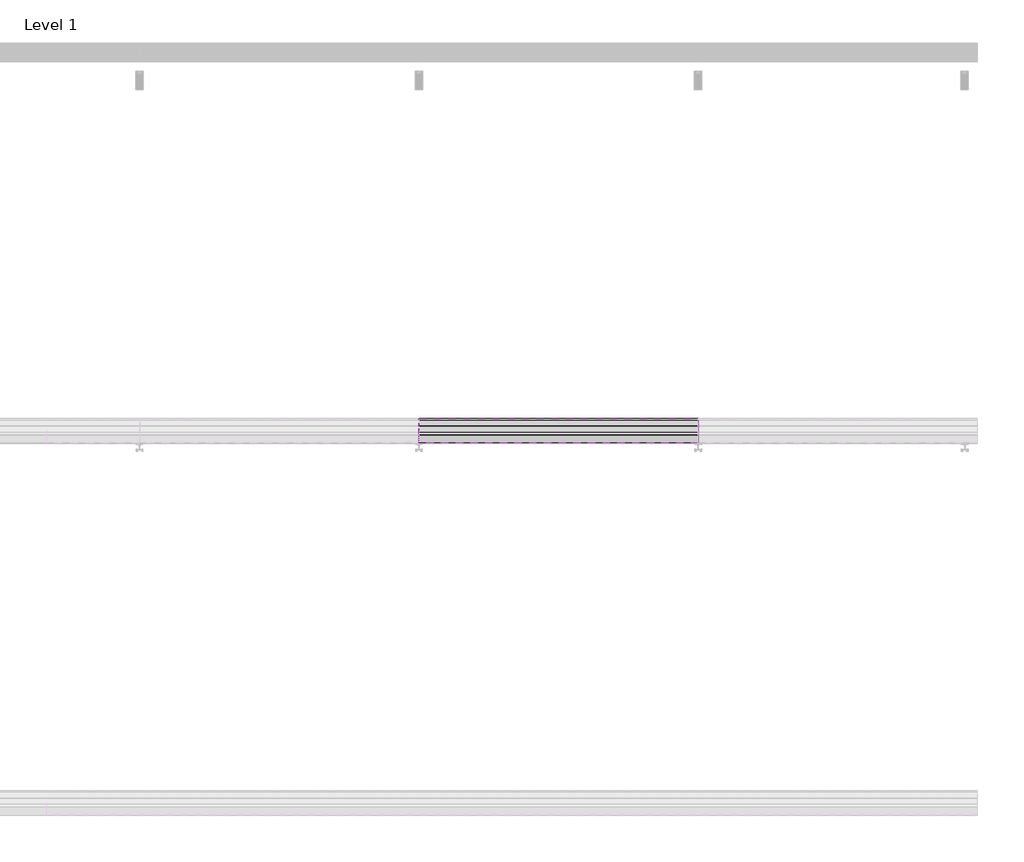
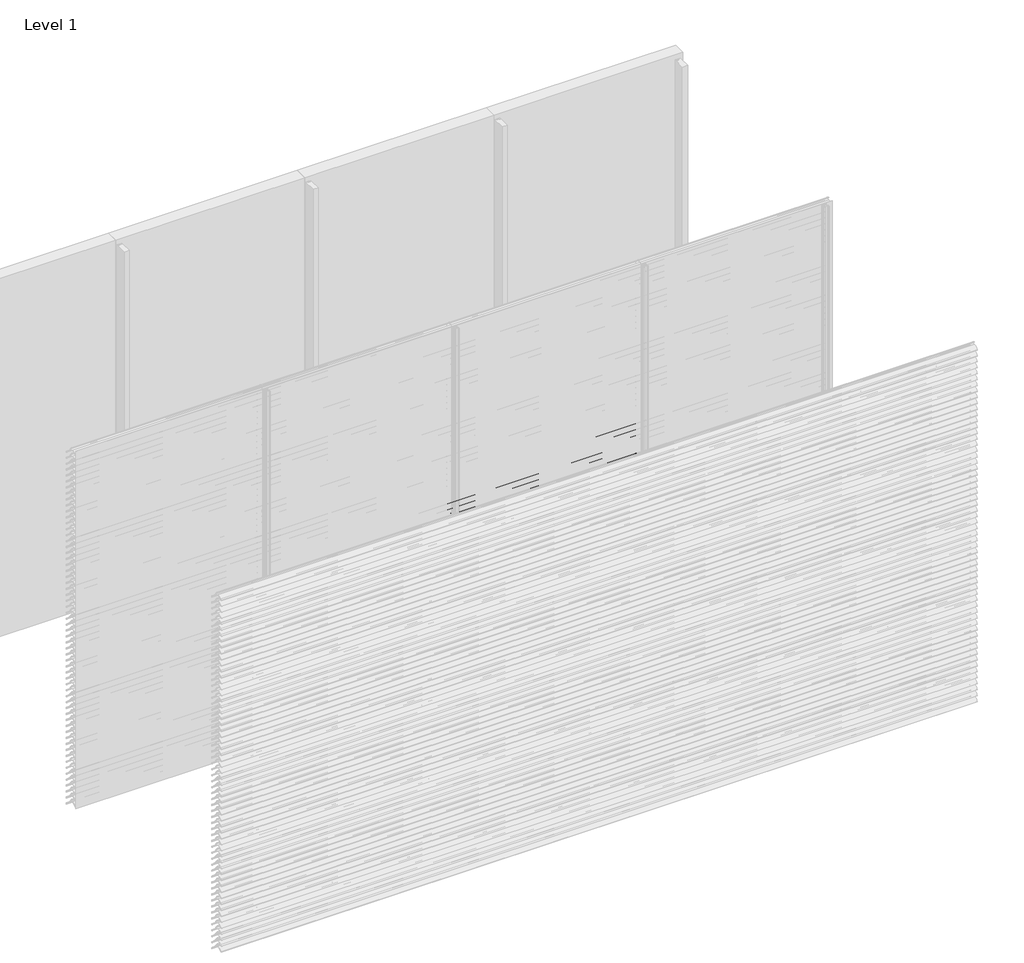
# One storey, part 49 of 173: 17 proxies.
"""IFC4 building model written with IfcOpenShell, lengths in millimetres."""

from ifc_helpers import new_model, si_unit, point, frame, frame_2d, origin, place, context, project, spatial, polyline, circle_curve, trimmed, segment, composite_curve, outline, extrude, element, save

model = new_model("IFC4")

# Units and contexts
model_context = context("Model", 3, world=origin())
ifc_project = project(units=[si_unit("LENGTHUNIT", "METRE", prefix="MILLI")], contexts=[model_context])

# Site, building, storey
site = spatial("IfcSite", under=ifc_project)
building = spatial("IfcBuilding", under=site)
storey = spatial("IfcBuildingStorey", under=building, Name="Level 1", Elevation=0.0)

# Proxies
placement = place(None, origin())
element("IfcBuildingElementProxy", 1, Name="Wall Sweeps", at=placement, inside=storey, context=model_context, shape_type="SweptSolid", body=[
    extrude(outline(composite_curve([segment(polyline([(-41998.0, 1709.1474905), (-41998.0, 1711.6227417)]), True, "CONTINUOUS"), segment(trimmed(circle_curve(frame_2d((-41951.2682172, 1666.2200208)), 65.1557103), [point((-41998.0, 1711.6227417))], [point((-41954.4014323, 1731.3003524))], False, "CARTESIAN"), True, "CONTINUOUS"), segment(polyline([(-41954.4014323, 1731.3003524), (-41934.8315836, 1731.3003524)]), True, "CONTINUOUS"), segment(trimmed(circle_curve(frame_2d((-41732.7329489, 1878.5533172)), 250.0545817), [point((-41934.8315836, 1731.3003524))], [point((-41941.4452143, 1740.8344583))], False, "CARTESIAN"), True, "CONTINUOUS"), segment(trimmed(circle_curve(frame_2d((-41953.2981792, 1735.1737835)), 13.1352966), [point((-41941.4452143, 1740.8344583))], [point((-41953.8171475, 1748.298824))], True, "CARTESIAN"), True, "CONTINUOUS"), segment(polyline([(-41953.8171475, 1748.298824), (-41953.8171475, 1750.0)]), True, "CONTINUOUS"), segment(trimmed(circle_curve(frame_2d((-41953.2981792, 1735.1737835)), 14.8352966), [point((-41953.8171475, 1750.0))], [point((-41939.9637661, 1741.6760487))], False, "CARTESIAN"), True, "CONTINUOUS"), segment(trimmed(circle_curve(frame_2d((-41732.7329489, 1878.5533172)), 248.3545817), [point((-41939.9637661, 1741.6760487))], [point((-41873.8787895, 1674.2059416))], True, "CARTESIAN"), True, "CONTINUOUS"), segment(trimmed(circle_curve(frame_2d((-41883.8147537, 1661.6649442)), 16.0), [point((-41873.8787895, 1674.2059416))], [point((-41867.8648347, 1660.4))], False, "CARTESIAN"), True, "CONTINUOUS"), segment(polyline([(-41867.8648347, 1660.4), (-41869.6712069, 1660.4)]), True, "CONTINUOUS"), segment(trimmed(circle_curve(frame_2d((-41883.8147537, 1661.6649442)), 14.2), [point((-41869.6712069, 1660.4))], [point((-41874.9518628, 1672.7594998))], True, "CARTESIAN"), True, "CONTINUOUS"), segment(trimmed(circle_curve(frame_2d((-41732.7329489, 1878.5533172)), 250.1545817), [point((-41874.9518628, 1672.7594998))], [point((-41933.7064024, 1729.6003524))], False, "CARTESIAN"), True, "CONTINUOUS"), segment(polyline([(-41933.7064024, 1729.6003524), (-41954.3602632, 1729.6003524)]), True, "CONTINUOUS"), segment(trimmed(circle_curve(frame_2d((-41951.2682172, 1666.2200208)), 63.4557103), [point((-41954.3602632, 1729.6003524))], [point((-41998.0, 1709.1474905))], True, "CARTESIAN"), True, "CONTINUOUS")], self_intersect=False)), frame((3000.0, 0.0, 0.0), z_axis=(1.0, 0.0, 0.0), x_axis=(0.0, 1.0, 0.0)), (0.0, 0.0, 1.0), 1500.0),
])
element("IfcBuildingElementProxy", 2, Name="Wall Sweeps", at=placement, inside=storey, context=model_context, shape_type="SweptSolid", body=[
    extrude(outline(composite_curve([segment(polyline([(-41998.0, 1659.1474905), (-41998.0, 1661.6227417)]), True, "CONTINUOUS"), segment(trimmed(circle_curve(frame_2d((-41951.2682172, 1616.2200208)), 65.1557103), [point((-41998.0, 1661.6227417))], [point((-41954.4014323, 1681.3003524))], False, "CARTESIAN"), True, "CONTINUOUS"), segment(polyline([(-41954.4014323, 1681.3003524), (-41934.8315836, 1681.3003524)]), True, "CONTINUOUS"), segment(trimmed(circle_curve(frame_2d((-41732.7329489, 1828.5533172)), 250.0545817), [point((-41934.8315836, 1681.3003524))], [point((-41941.4452143, 1690.8344583))], False, "CARTESIAN"), True, "CONTINUOUS"), segment(trimmed(circle_curve(frame_2d((-41953.2981792, 1685.1737835)), 13.1352966), [point((-41941.4452143, 1690.8344583))], [point((-41953.8171475, 1698.298824))], True, "CARTESIAN"), True, "CONTINUOUS"), segment(polyline([(-41953.8171475, 1698.298824), (-41953.8171475, 1700.0)]), True, "CONTINUOUS"), segment(trimmed(circle_curve(frame_2d((-41953.2981792, 1685.1737835)), 14.8352966), [point((-41953.8171475, 1700.0))], [point((-41939.9637661, 1691.6760487))], False, "CARTESIAN"), True, "CONTINUOUS"), segment(trimmed(circle_curve(frame_2d((-41732.7329489, 1828.5533172)), 248.3545817), [point((-41939.9637661, 1691.6760487))], [point((-41873.8787895, 1624.2059416))], True, "CARTESIAN"), True, "CONTINUOUS"), segment(trimmed(circle_curve(frame_2d((-41883.8147537, 1611.6649442)), 16.0), [point((-41873.8787895, 1624.2059416))], [point((-41867.8648347, 1610.4))], False, "CARTESIAN"), True, "CONTINUOUS"), segment(polyline([(-41867.8648347, 1610.4), (-41869.6712069, 1610.4)]), True, "CONTINUOUS"), segment(trimmed(circle_curve(frame_2d((-41883.8147537, 1611.6649442)), 14.2), [point((-41869.6712069, 1610.4))], [point((-41874.9518628, 1622.7594998))], True, "CARTESIAN"), True, "CONTINUOUS"), segment(trimmed(circle_curve(frame_2d((-41732.7329489, 1828.5533172)), 250.1545817), [point((-41874.9518628, 1622.7594998))], [point((-41933.7064024, 1679.6003524))], False, "CARTESIAN"), True, "CONTINUOUS"), segment(polyline([(-41933.7064024, 1679.6003524), (-41954.3602632, 1679.6003524)]), True, "CONTINUOUS"), segment(trimmed(circle_curve(frame_2d((-41951.2682172, 1616.2200208)), 63.4557103), [point((-41954.3602632, 1679.6003524))], [point((-41998.0, 1659.1474905))], True, "CARTESIAN"), True, "CONTINUOUS")], self_intersect=False)), frame((3000.0, 0.0, 0.0), z_axis=(1.0, 0.0, 0.0), x_axis=(0.0, 1.0, 0.0)), (0.0, 0.0, 1.0), 1500.0),
])
element("IfcBuildingElementProxy", 3, Name="Wall Sweeps", at=placement, inside=storey, context=model_context, shape_type="SweptSolid", body=[
    extrude(outline(composite_curve([segment(polyline([(-41998.0, 1609.1474905), (-41998.0, 1611.6227417)]), True, "CONTINUOUS"), segment(trimmed(circle_curve(frame_2d((-41951.2682172, 1566.2200208)), 65.1557103), [point((-41998.0, 1611.6227417))], [point((-41954.4014323, 1631.3003524))], False, "CARTESIAN"), True, "CONTINUOUS"), segment(polyline([(-41954.4014323, 1631.3003524), (-41934.8315836, 1631.3003524)]), True, "CONTINUOUS"), segment(trimmed(circle_curve(frame_2d((-41732.7329489, 1778.5533172)), 250.0545817), [point((-41934.8315836, 1631.3003524))], [point((-41941.4452143, 1640.8344583))], False, "CARTESIAN"), True, "CONTINUOUS"), segment(trimmed(circle_curve(frame_2d((-41953.2981792, 1635.1737835)), 13.1352966), [point((-41941.4452143, 1640.8344583))], [point((-41953.8171475, 1648.298824))], True, "CARTESIAN"), True, "CONTINUOUS"), segment(polyline([(-41953.8171475, 1648.298824), (-41953.8171475, 1650.0)]), True, "CONTINUOUS"), segment(trimmed(circle_curve(frame_2d((-41953.2981792, 1635.1737835)), 14.8352966), [point((-41953.8171475, 1650.0))], [point((-41939.9637661, 1641.6760487))], False, "CARTESIAN"), True, "CONTINUOUS"), segment(trimmed(circle_curve(frame_2d((-41732.7329489, 1778.5533172)), 248.3545817), [point((-41939.9637661, 1641.6760487))], [point((-41873.8787895, 1574.2059416))], True, "CARTESIAN"), True, "CONTINUOUS"), segment(trimmed(circle_curve(frame_2d((-41883.8147537, 1561.6649442)), 16.0), [point((-41873.8787895, 1574.2059416))], [point((-41867.8648347, 1560.4))], False, "CARTESIAN"), True, "CONTINUOUS"), segment(polyline([(-41867.8648347, 1560.4), (-41869.6712069, 1560.4)]), True, "CONTINUOUS"), segment(trimmed(circle_curve(frame_2d((-41883.8147537, 1561.6649442)), 14.2), [point((-41869.6712069, 1560.4))], [point((-41874.9518628, 1572.7594998))], True, "CARTESIAN"), True, "CONTINUOUS"), segment(trimmed(circle_curve(frame_2d((-41732.7329489, 1778.5533172)), 250.1545817), [point((-41874.9518628, 1572.7594998))], [point((-41933.7064024, 1629.6003524))], False, "CARTESIAN"), True, "CONTINUOUS"), segment(polyline([(-41933.7064024, 1629.6003524), (-41954.3602632, 1629.6003524)]), True, "CONTINUOUS"), segment(trimmed(circle_curve(frame_2d((-41951.2682172, 1566.2200208)), 63.4557103), [point((-41954.3602632, 1629.6003524))], [point((-41998.0, 1609.1474905))], True, "CARTESIAN"), True, "CONTINUOUS")], self_intersect=False)), frame((3000.0, 0.0, 0.0), z_axis=(1.0, 0.0, 0.0), x_axis=(0.0, 1.0, 0.0)), (0.0, 0.0, 1.0), 1500.0),
])
element("IfcBuildingElementProxy", 4, Name="Wall Sweeps", at=placement, inside=storey, context=model_context, shape_type="SweptSolid", body=[
    extrude(outline(composite_curve([segment(polyline([(-41998.0, 1559.1474905), (-41998.0, 1561.6227417)]), True, "CONTINUOUS"), segment(trimmed(circle_curve(frame_2d((-41951.2682172, 1516.2200208)), 65.1557103), [point((-41998.0, 1561.6227417))], [point((-41954.4014323, 1581.3003524))], False, "CARTESIAN"), True, "CONTINUOUS"), segment(polyline([(-41954.4014323, 1581.3003524), (-41934.8315836, 1581.3003524)]), True, "CONTINUOUS"), segment(trimmed(circle_curve(frame_2d((-41732.7329489, 1728.5533172)), 250.0545817), [point((-41934.8315836, 1581.3003524))], [point((-41941.4452143, 1590.8344583))], False, "CARTESIAN"), True, "CONTINUOUS"), segment(trimmed(circle_curve(frame_2d((-41953.2981792, 1585.1737835)), 13.1352966), [point((-41941.4452143, 1590.8344583))], [point((-41953.8171475, 1598.298824))], True, "CARTESIAN"), True, "CONTINUOUS"), segment(polyline([(-41953.8171475, 1598.298824), (-41953.8171475, 1600.0)]), True, "CONTINUOUS"), segment(trimmed(circle_curve(frame_2d((-41953.2981792, 1585.1737835)), 14.8352966), [point((-41953.8171475, 1600.0))], [point((-41939.9637661, 1591.6760487))], False, "CARTESIAN"), True, "CONTINUOUS"), segment(trimmed(circle_curve(frame_2d((-41732.7329489, 1728.5533172)), 248.3545817), [point((-41939.9637661, 1591.6760487))], [point((-41873.8787895, 1524.2059416))], True, "CARTESIAN"), True, "CONTINUOUS"), segment(trimmed(circle_curve(frame_2d((-41883.8147537, 1511.6649442)), 16.0), [point((-41873.8787895, 1524.2059416))], [point((-41867.8648347, 1510.4))], False, "CARTESIAN"), True, "CONTINUOUS"), segment(polyline([(-41867.8648347, 1510.4), (-41869.6712069, 1510.4)]), True, "CONTINUOUS"), segment(trimmed(circle_curve(frame_2d((-41883.8147537, 1511.6649442)), 14.2), [point((-41869.6712069, 1510.4))], [point((-41874.9518628, 1522.7594998))], True, "CARTESIAN"), True, "CONTINUOUS"), segment(trimmed(circle_curve(frame_2d((-41732.7329489, 1728.5533172)), 250.1545817), [point((-41874.9518628, 1522.7594998))], [point((-41933.7064024, 1579.6003524))], False, "CARTESIAN"), True, "CONTINUOUS"), segment(polyline([(-41933.7064024, 1579.6003524), (-41954.3602632, 1579.6003524)]), True, "CONTINUOUS"), segment(trimmed(circle_curve(frame_2d((-41951.2682172, 1516.2200208)), 63.4557103), [point((-41954.3602632, 1579.6003524))], [point((-41998.0, 1559.1474905))], True, "CARTESIAN"), True, "CONTINUOUS")], self_intersect=False)), frame((3000.0, 0.0, 0.0), z_axis=(1.0, 0.0, 0.0), x_axis=(0.0, 1.0, 0.0)), (0.0, 0.0, 1.0), 1500.0),
])
element("IfcBuildingElementProxy", 5, Name="Wall Sweeps", at=placement, inside=storey, context=model_context, shape_type="SweptSolid", body=[
    extrude(outline(composite_curve([segment(polyline([(-41998.0, 1509.1474905), (-41998.0, 1511.6227417)]), True, "CONTINUOUS"), segment(trimmed(circle_curve(frame_2d((-41951.2682172, 1466.2200208)), 65.1557103), [point((-41998.0, 1511.6227417))], [point((-41954.4014323, 1531.3003524))], False, "CARTESIAN"), True, "CONTINUOUS"), segment(polyline([(-41954.4014323, 1531.3003524), (-41934.8315836, 1531.3003524)]), True, "CONTINUOUS"), segment(trimmed(circle_curve(frame_2d((-41732.7329489, 1678.5533172)), 250.0545817), [point((-41934.8315836, 1531.3003524))], [point((-41941.4452143, 1540.8344583))], False, "CARTESIAN"), True, "CONTINUOUS"), segment(trimmed(circle_curve(frame_2d((-41953.2981792, 1535.1737835)), 13.1352966), [point((-41941.4452143, 1540.8344583))], [point((-41953.8171475, 1548.298824))], True, "CARTESIAN"), True, "CONTINUOUS"), segment(polyline([(-41953.8171475, 1548.298824), (-41953.8171475, 1550.0)]), True, "CONTINUOUS"), segment(trimmed(circle_curve(frame_2d((-41953.2981792, 1535.1737835)), 14.8352966), [point((-41953.8171475, 1550.0))], [point((-41939.9637661, 1541.6760487))], False, "CARTESIAN"), True, "CONTINUOUS"), segment(trimmed(circle_curve(frame_2d((-41732.7329489, 1678.5533172)), 248.3545817), [point((-41939.9637661, 1541.6760487))], [point((-41873.8787895, 1474.2059416))], True, "CARTESIAN"), True, "CONTINUOUS"), segment(trimmed(circle_curve(frame_2d((-41883.8147537, 1461.6649442)), 16.0), [point((-41873.8787895, 1474.2059416))], [point((-41867.8648347, 1460.4))], False, "CARTESIAN"), True, "CONTINUOUS"), segment(polyline([(-41867.8648347, 1460.4), (-41869.6712069, 1460.4)]), True, "CONTINUOUS"), segment(trimmed(circle_curve(frame_2d((-41883.8147537, 1461.6649442)), 14.2), [point((-41869.6712069, 1460.4))], [point((-41874.9518628, 1472.7594998))], True, "CARTESIAN"), True, "CONTINUOUS"), segment(trimmed(circle_curve(frame_2d((-41732.7329489, 1678.5533172)), 250.1545817), [point((-41874.9518628, 1472.7594998))], [point((-41933.7064024, 1529.6003524))], False, "CARTESIAN"), True, "CONTINUOUS"), segment(polyline([(-41933.7064024, 1529.6003524), (-41954.3602632, 1529.6003524)]), True, "CONTINUOUS"), segment(trimmed(circle_curve(frame_2d((-41951.2682172, 1466.2200208)), 63.4557103), [point((-41954.3602632, 1529.6003524))], [point((-41998.0, 1509.1474905))], True, "CARTESIAN"), True, "CONTINUOUS")], self_intersect=False)), frame((3000.0, 0.0, 0.0), z_axis=(1.0, 0.0, 0.0), x_axis=(0.0, 1.0, 0.0)), (0.0, 0.0, 1.0), 1500.0),
])
element("IfcBuildingElementProxy", 6, Name="Wall Sweeps", at=placement, inside=storey, context=model_context, shape_type="SweptSolid", body=[
    extrude(outline(composite_curve([segment(polyline([(-41998.0, 1459.1474905), (-41998.0, 1461.6227417)]), True, "CONTINUOUS"), segment(trimmed(circle_curve(frame_2d((-41951.2682172, 1416.2200208)), 65.1557103), [point((-41998.0, 1461.6227417))], [point((-41954.4014323, 1481.3003524))], False, "CARTESIAN"), True, "CONTINUOUS"), segment(polyline([(-41954.4014323, 1481.3003524), (-41934.8315836, 1481.3003524)]), True, "CONTINUOUS"), segment(trimmed(circle_curve(frame_2d((-41732.7329489, 1628.5533172)), 250.0545817), [point((-41934.8315836, 1481.3003524))], [point((-41941.4452143, 1490.8344583))], False, "CARTESIAN"), True, "CONTINUOUS"), segment(trimmed(circle_curve(frame_2d((-41953.2981792, 1485.1737835)), 13.1352966), [point((-41941.4452143, 1490.8344583))], [point((-41953.8171475, 1498.298824))], True, "CARTESIAN"), True, "CONTINUOUS"), segment(polyline([(-41953.8171475, 1498.298824), (-41953.8171475, 1500.0)]), True, "CONTINUOUS"), segment(trimmed(circle_curve(frame_2d((-41953.2981792, 1485.1737835)), 14.8352966), [point((-41953.8171475, 1500.0))], [point((-41939.9637661, 1491.6760487))], False, "CARTESIAN"), True, "CONTINUOUS"), segment(trimmed(circle_curve(frame_2d((-41732.7329489, 1628.5533172)), 248.3545817), [point((-41939.9637661, 1491.6760487))], [point((-41873.8787895, 1424.2059416))], True, "CARTESIAN"), True, "CONTINUOUS"), segment(trimmed(circle_curve(frame_2d((-41883.8147537, 1411.6649442)), 16.0), [point((-41873.8787895, 1424.2059416))], [point((-41867.8648347, 1410.4))], False, "CARTESIAN"), True, "CONTINUOUS"), segment(polyline([(-41867.8648347, 1410.4), (-41869.6712069, 1410.4)]), True, "CONTINUOUS"), segment(trimmed(circle_curve(frame_2d((-41883.8147537, 1411.6649442)), 14.2), [point((-41869.6712069, 1410.4))], [point((-41874.9518628, 1422.7594998))], True, "CARTESIAN"), True, "CONTINUOUS"), segment(trimmed(circle_curve(frame_2d((-41732.7329489, 1628.5533172)), 250.1545817), [point((-41874.9518628, 1422.7594998))], [point((-41933.7064024, 1479.6003524))], False, "CARTESIAN"), True, "CONTINUOUS"), segment(polyline([(-41933.7064024, 1479.6003524), (-41954.3602632, 1479.6003524)]), True, "CONTINUOUS"), segment(trimmed(circle_curve(frame_2d((-41951.2682172, 1416.2200208)), 63.4557103), [point((-41954.3602632, 1479.6003524))], [point((-41998.0, 1459.1474905))], True, "CARTESIAN"), True, "CONTINUOUS")], self_intersect=False)), frame((3000.0, 0.0, 0.0), z_axis=(1.0, 0.0, 0.0), x_axis=(0.0, 1.0, 0.0)), (0.0, 0.0, 1.0), 1500.0),
])
element("IfcBuildingElementProxy", 7, Name="Wall Sweeps", at=placement, inside=storey, context=model_context, shape_type="SweptSolid", body=[
    extrude(outline(composite_curve([segment(polyline([(-41998.0, 1409.1474905), (-41998.0, 1411.6227417)]), True, "CONTINUOUS"), segment(trimmed(circle_curve(frame_2d((-41951.2682172, 1366.2200208)), 65.1557103), [point((-41998.0, 1411.6227417))], [point((-41954.4014323, 1431.3003524))], False, "CARTESIAN"), True, "CONTINUOUS"), segment(polyline([(-41954.4014323, 1431.3003524), (-41934.8315836, 1431.3003524)]), True, "CONTINUOUS"), segment(trimmed(circle_curve(frame_2d((-41732.7329489, 1578.5533172)), 250.0545817), [point((-41934.8315836, 1431.3003524))], [point((-41941.4452143, 1440.8344583))], False, "CARTESIAN"), True, "CONTINUOUS"), segment(trimmed(circle_curve(frame_2d((-41953.2981792, 1435.1737835)), 13.1352966), [point((-41941.4452143, 1440.8344583))], [point((-41953.8171475, 1448.298824))], True, "CARTESIAN"), True, "CONTINUOUS"), segment(polyline([(-41953.8171475, 1448.298824), (-41953.8171475, 1450.0)]), True, "CONTINUOUS"), segment(trimmed(circle_curve(frame_2d((-41953.2981792, 1435.1737835)), 14.8352966), [point((-41953.8171475, 1450.0))], [point((-41939.9637661, 1441.6760487))], False, "CARTESIAN"), True, "CONTINUOUS"), segment(trimmed(circle_curve(frame_2d((-41732.7329489, 1578.5533172)), 248.3545817), [point((-41939.9637661, 1441.6760487))], [point((-41873.8787895, 1374.2059416))], True, "CARTESIAN"), True, "CONTINUOUS"), segment(trimmed(circle_curve(frame_2d((-41883.8147537, 1361.6649442)), 16.0), [point((-41873.8787895, 1374.2059416))], [point((-41867.8648347, 1360.4))], False, "CARTESIAN"), True, "CONTINUOUS"), segment(polyline([(-41867.8648347, 1360.4), (-41869.6712069, 1360.4)]), True, "CONTINUOUS"), segment(trimmed(circle_curve(frame_2d((-41883.8147537, 1361.6649442)), 14.2), [point((-41869.6712069, 1360.4))], [point((-41874.9518628, 1372.7594998))], True, "CARTESIAN"), True, "CONTINUOUS"), segment(trimmed(circle_curve(frame_2d((-41732.7329489, 1578.5533172)), 250.1545817), [point((-41874.9518628, 1372.7594998))], [point((-41933.7064024, 1429.6003524))], False, "CARTESIAN"), True, "CONTINUOUS"), segment(polyline([(-41933.7064024, 1429.6003524), (-41954.3602632, 1429.6003524)]), True, "CONTINUOUS"), segment(trimmed(circle_curve(frame_2d((-41951.2682172, 1366.2200208)), 63.4557103), [point((-41954.3602632, 1429.6003524))], [point((-41998.0, 1409.1474905))], True, "CARTESIAN"), True, "CONTINUOUS")], self_intersect=False)), frame((3000.0, 0.0, 0.0), z_axis=(1.0, 0.0, 0.0), x_axis=(0.0, 1.0, 0.0)), (0.0, 0.0, 1.0), 1500.0),
])
element("IfcBuildingElementProxy", 8, Name="Wall Sweeps", at=placement, inside=storey, context=model_context, shape_type="SweptSolid", body=[
    extrude(outline(composite_curve([segment(polyline([(-41998.0, 1359.1474905), (-41998.0, 1361.6227417)]), True, "CONTINUOUS"), segment(trimmed(circle_curve(frame_2d((-41951.2682172, 1316.2200208)), 65.1557103), [point((-41998.0, 1361.6227417))], [point((-41954.4014323, 1381.3003524))], False, "CARTESIAN"), True, "CONTINUOUS"), segment(polyline([(-41954.4014323, 1381.3003524), (-41934.8315836, 1381.3003524)]), True, "CONTINUOUS"), segment(trimmed(circle_curve(frame_2d((-41732.7329489, 1528.5533172)), 250.0545817), [point((-41934.8315836, 1381.3003524))], [point((-41941.4452143, 1390.8344583))], False, "CARTESIAN"), True, "CONTINUOUS"), segment(trimmed(circle_curve(frame_2d((-41953.2981792, 1385.1737835)), 13.1352966), [point((-41941.4452143, 1390.8344583))], [point((-41953.8171475, 1398.298824))], True, "CARTESIAN"), True, "CONTINUOUS"), segment(polyline([(-41953.8171475, 1398.298824), (-41953.8171475, 1400.0)]), True, "CONTINUOUS"), segment(trimmed(circle_curve(frame_2d((-41953.2981792, 1385.1737835)), 14.8352966), [point((-41953.8171475, 1400.0))], [point((-41939.9637661, 1391.6760487))], False, "CARTESIAN"), True, "CONTINUOUS"), segment(trimmed(circle_curve(frame_2d((-41732.7329489, 1528.5533172)), 248.3545817), [point((-41939.9637661, 1391.6760487))], [point((-41873.8787895, 1324.2059416))], True, "CARTESIAN"), True, "CONTINUOUS"), segment(trimmed(circle_curve(frame_2d((-41883.8147537, 1311.6649442)), 16.0), [point((-41873.8787895, 1324.2059416))], [point((-41867.8648347, 1310.4))], False, "CARTESIAN"), True, "CONTINUOUS"), segment(polyline([(-41867.8648347, 1310.4), (-41869.6712069, 1310.4)]), True, "CONTINUOUS"), segment(trimmed(circle_curve(frame_2d((-41883.8147537, 1311.6649442)), 14.2), [point((-41869.6712069, 1310.4))], [point((-41874.9518628, 1322.7594998))], True, "CARTESIAN"), True, "CONTINUOUS"), segment(trimmed(circle_curve(frame_2d((-41732.7329489, 1528.5533172)), 250.1545817), [point((-41874.9518628, 1322.7594998))], [point((-41933.7064024, 1379.6003524))], False, "CARTESIAN"), True, "CONTINUOUS"), segment(polyline([(-41933.7064024, 1379.6003524), (-41954.3602632, 1379.6003524)]), True, "CONTINUOUS"), segment(trimmed(circle_curve(frame_2d((-41951.2682172, 1316.2200208)), 63.4557103), [point((-41954.3602632, 1379.6003524))], [point((-41998.0, 1359.1474905))], True, "CARTESIAN"), True, "CONTINUOUS")], self_intersect=False)), frame((3000.0, 0.0, 0.0), z_axis=(1.0, 0.0, 0.0), x_axis=(0.0, 1.0, 0.0)), (0.0, 0.0, 1.0), 1500.0),
])
element("IfcBuildingElementProxy", 9, Name="Wall Sweeps", at=placement, inside=storey, context=model_context, shape_type="SweptSolid", body=[
    extrude(outline(composite_curve([segment(polyline([(-41998.0, 1309.1474905), (-41998.0, 1311.6227417)]), True, "CONTINUOUS"), segment(trimmed(circle_curve(frame_2d((-41951.2682172, 1266.2200208)), 65.1557103), [point((-41998.0, 1311.6227417))], [point((-41954.4014323, 1331.3003524))], False, "CARTESIAN"), True, "CONTINUOUS"), segment(polyline([(-41954.4014323, 1331.3003524), (-41934.8315836, 1331.3003524)]), True, "CONTINUOUS"), segment(trimmed(circle_curve(frame_2d((-41732.7329489, 1478.5533172)), 250.0545817), [point((-41934.8315836, 1331.3003524))], [point((-41941.4452143, 1340.8344583))], False, "CARTESIAN"), True, "CONTINUOUS"), segment(trimmed(circle_curve(frame_2d((-41953.2981792, 1335.1737835)), 13.1352966), [point((-41941.4452143, 1340.8344583))], [point((-41953.8171475, 1348.298824))], True, "CARTESIAN"), True, "CONTINUOUS"), segment(polyline([(-41953.8171475, 1348.298824), (-41953.8171475, 1350.0)]), True, "CONTINUOUS"), segment(trimmed(circle_curve(frame_2d((-41953.2981792, 1335.1737835)), 14.8352966), [point((-41953.8171475, 1350.0))], [point((-41939.9637661, 1341.6760487))], False, "CARTESIAN"), True, "CONTINUOUS"), segment(trimmed(circle_curve(frame_2d((-41732.7329489, 1478.5533172)), 248.3545817), [point((-41939.9637661, 1341.6760487))], [point((-41873.8787895, 1274.2059416))], True, "CARTESIAN"), True, "CONTINUOUS"), segment(trimmed(circle_curve(frame_2d((-41883.8147537, 1261.6649442)), 16.0), [point((-41873.8787895, 1274.2059416))], [point((-41867.8648347, 1260.4))], False, "CARTESIAN"), True, "CONTINUOUS"), segment(polyline([(-41867.8648347, 1260.4), (-41869.6712069, 1260.4)]), True, "CONTINUOUS"), segment(trimmed(circle_curve(frame_2d((-41883.8147537, 1261.6649442)), 14.2), [point((-41869.6712069, 1260.4))], [point((-41874.9518628, 1272.7594998))], True, "CARTESIAN"), True, "CONTINUOUS"), segment(trimmed(circle_curve(frame_2d((-41732.7329489, 1478.5533172)), 250.1545817), [point((-41874.9518628, 1272.7594998))], [point((-41933.7064024, 1329.6003524))], False, "CARTESIAN"), True, "CONTINUOUS"), segment(polyline([(-41933.7064024, 1329.6003524), (-41954.3602632, 1329.6003524)]), True, "CONTINUOUS"), segment(trimmed(circle_curve(frame_2d((-41951.2682172, 1266.2200208)), 63.4557103), [point((-41954.3602632, 1329.6003524))], [point((-41998.0, 1309.1474905))], True, "CARTESIAN"), True, "CONTINUOUS")], self_intersect=False)), frame((3000.0, 0.0, 0.0), z_axis=(1.0, 0.0, 0.0), x_axis=(0.0, 1.0, 0.0)), (0.0, 0.0, 1.0), 1500.0),
])
element("IfcBuildingElementProxy", 10, Name="Wall Sweeps", at=placement, inside=storey, context=model_context, shape_type="SweptSolid", body=[
    extrude(outline(composite_curve([segment(polyline([(-41998.0, 1259.1474905), (-41998.0, 1261.6227417)]), True, "CONTINUOUS"), segment(trimmed(circle_curve(frame_2d((-41951.2682172, 1216.2200208)), 65.1557103), [point((-41998.0, 1261.6227417))], [point((-41954.4014323, 1281.3003524))], False, "CARTESIAN"), True, "CONTINUOUS"), segment(polyline([(-41954.4014323, 1281.3003524), (-41934.8315836, 1281.3003524)]), True, "CONTINUOUS"), segment(trimmed(circle_curve(frame_2d((-41732.7329489, 1428.5533172)), 250.0545817), [point((-41934.8315836, 1281.3003524))], [point((-41941.4452143, 1290.8344583))], False, "CARTESIAN"), True, "CONTINUOUS"), segment(trimmed(circle_curve(frame_2d((-41953.2981792, 1285.1737835)), 13.1352966), [point((-41941.4452143, 1290.8344583))], [point((-41953.8171475, 1298.298824))], True, "CARTESIAN"), True, "CONTINUOUS"), segment(polyline([(-41953.8171475, 1298.298824), (-41953.8171475, 1300.0)]), True, "CONTINUOUS"), segment(trimmed(circle_curve(frame_2d((-41953.2981792, 1285.1737835)), 14.8352966), [point((-41953.8171475, 1300.0))], [point((-41939.9637661, 1291.6760487))], False, "CARTESIAN"), True, "CONTINUOUS"), segment(trimmed(circle_curve(frame_2d((-41732.7329489, 1428.5533172)), 248.3545817), [point((-41939.9637661, 1291.6760487))], [point((-41873.8787895, 1224.2059416))], True, "CARTESIAN"), True, "CONTINUOUS"), segment(trimmed(circle_curve(frame_2d((-41883.8147537, 1211.6649442)), 16.0), [point((-41873.8787895, 1224.2059416))], [point((-41867.8648347, 1210.4))], False, "CARTESIAN"), True, "CONTINUOUS"), segment(polyline([(-41867.8648347, 1210.4), (-41869.6712069, 1210.4)]), True, "CONTINUOUS"), segment(trimmed(circle_curve(frame_2d((-41883.8147537, 1211.6649442)), 14.2), [point((-41869.6712069, 1210.4))], [point((-41874.9518628, 1222.7594998))], True, "CARTESIAN"), True, "CONTINUOUS"), segment(trimmed(circle_curve(frame_2d((-41732.7329489, 1428.5533172)), 250.1545817), [point((-41874.9518628, 1222.7594998))], [point((-41933.7064024, 1279.6003524))], False, "CARTESIAN"), True, "CONTINUOUS"), segment(polyline([(-41933.7064024, 1279.6003524), (-41954.3602632, 1279.6003524)]), True, "CONTINUOUS"), segment(trimmed(circle_curve(frame_2d((-41951.2682172, 1216.2200208)), 63.4557103), [point((-41954.3602632, 1279.6003524))], [point((-41998.0, 1259.1474905))], True, "CARTESIAN"), True, "CONTINUOUS")], self_intersect=False)), frame((3000.0, 0.0, 0.0), z_axis=(1.0, 0.0, 0.0), x_axis=(0.0, 1.0, 0.0)), (0.0, 0.0, 1.0), 1500.0),
])
element("IfcBuildingElementProxy", 11, Name="Wall Sweeps", at=placement, inside=storey, context=model_context, shape_type="SweptSolid", body=[
    extrude(outline(composite_curve([segment(polyline([(-41998.0, 1209.1474905), (-41998.0, 1211.6227417)]), True, "CONTINUOUS"), segment(trimmed(circle_curve(frame_2d((-41951.2682172, 1166.2200208)), 65.1557103), [point((-41998.0, 1211.6227417))], [point((-41954.4014323, 1231.3003524))], False, "CARTESIAN"), True, "CONTINUOUS"), segment(polyline([(-41954.4014323, 1231.3003524), (-41934.8315836, 1231.3003524)]), True, "CONTINUOUS"), segment(trimmed(circle_curve(frame_2d((-41732.7329489, 1378.5533172)), 250.0545817), [point((-41934.8315836, 1231.3003524))], [point((-41941.4452143, 1240.8344583))], False, "CARTESIAN"), True, "CONTINUOUS"), segment(trimmed(circle_curve(frame_2d((-41953.2981792, 1235.1737835)), 13.1352966), [point((-41941.4452143, 1240.8344583))], [point((-41953.8171475, 1248.298824))], True, "CARTESIAN"), True, "CONTINUOUS"), segment(polyline([(-41953.8171475, 1248.298824), (-41953.8171475, 1250.0)]), True, "CONTINUOUS"), segment(trimmed(circle_curve(frame_2d((-41953.2981792, 1235.1737835)), 14.8352966), [point((-41953.8171475, 1250.0))], [point((-41939.9637661, 1241.6760487))], False, "CARTESIAN"), True, "CONTINUOUS"), segment(trimmed(circle_curve(frame_2d((-41732.7329489, 1378.5533172)), 248.3545817), [point((-41939.9637661, 1241.6760487))], [point((-41873.8787895, 1174.2059416))], True, "CARTESIAN"), True, "CONTINUOUS"), segment(trimmed(circle_curve(frame_2d((-41883.8147537, 1161.6649442)), 16.0), [point((-41873.8787895, 1174.2059416))], [point((-41867.8648347, 1160.4))], False, "CARTESIAN"), True, "CONTINUOUS"), segment(polyline([(-41867.8648347, 1160.4), (-41869.6712069, 1160.4)]), True, "CONTINUOUS"), segment(trimmed(circle_curve(frame_2d((-41883.8147537, 1161.6649442)), 14.2), [point((-41869.6712069, 1160.4))], [point((-41874.9518628, 1172.7594998))], True, "CARTESIAN"), True, "CONTINUOUS"), segment(trimmed(circle_curve(frame_2d((-41732.7329489, 1378.5533172)), 250.1545817), [point((-41874.9518628, 1172.7594998))], [point((-41933.7064024, 1229.6003524))], False, "CARTESIAN"), True, "CONTINUOUS"), segment(polyline([(-41933.7064024, 1229.6003524), (-41954.3602632, 1229.6003524)]), True, "CONTINUOUS"), segment(trimmed(circle_curve(frame_2d((-41951.2682172, 1166.2200208)), 63.4557103), [point((-41954.3602632, 1229.6003524))], [point((-41998.0, 1209.1474905))], True, "CARTESIAN"), True, "CONTINUOUS")], self_intersect=False)), frame((3000.0, 0.0, 0.0), z_axis=(1.0, 0.0, 0.0), x_axis=(0.0, 1.0, 0.0)), (0.0, 0.0, 1.0), 1500.0),
])
element("IfcBuildingElementProxy", 12, Name="Wall Sweeps", at=placement, inside=storey, context=model_context, shape_type="SweptSolid", body=[
    extrude(outline(composite_curve([segment(polyline([(-41998.0, 1159.1474905), (-41998.0, 1161.6227417)]), True, "CONTINUOUS"), segment(trimmed(circle_curve(frame_2d((-41951.2682172, 1116.2200208)), 65.1557103), [point((-41998.0, 1161.6227417))], [point((-41954.4014323, 1181.3003524))], False, "CARTESIAN"), True, "CONTINUOUS"), segment(polyline([(-41954.4014323, 1181.3003524), (-41934.8315836, 1181.3003524)]), True, "CONTINUOUS"), segment(trimmed(circle_curve(frame_2d((-41732.7329489, 1328.5533172)), 250.0545817), [point((-41934.8315836, 1181.3003524))], [point((-41941.4452143, 1190.8344583))], False, "CARTESIAN"), True, "CONTINUOUS"), segment(trimmed(circle_curve(frame_2d((-41953.2981792, 1185.1737835)), 13.1352966), [point((-41941.4452143, 1190.8344583))], [point((-41953.8171475, 1198.298824))], True, "CARTESIAN"), True, "CONTINUOUS"), segment(polyline([(-41953.8171475, 1198.298824), (-41953.8171475, 1200.0)]), True, "CONTINUOUS"), segment(trimmed(circle_curve(frame_2d((-41953.2981792, 1185.1737835)), 14.8352966), [point((-41953.8171475, 1200.0))], [point((-41939.9637661, 1191.6760487))], False, "CARTESIAN"), True, "CONTINUOUS"), segment(trimmed(circle_curve(frame_2d((-41732.7329489, 1328.5533172)), 248.3545817), [point((-41939.9637661, 1191.6760487))], [point((-41873.8787895, 1124.2059416))], True, "CARTESIAN"), True, "CONTINUOUS"), segment(trimmed(circle_curve(frame_2d((-41883.8147537, 1111.6649442)), 16.0), [point((-41873.8787895, 1124.2059416))], [point((-41867.8648347, 1110.4))], False, "CARTESIAN"), True, "CONTINUOUS"), segment(polyline([(-41867.8648347, 1110.4), (-41869.6712069, 1110.4)]), True, "CONTINUOUS"), segment(trimmed(circle_curve(frame_2d((-41883.8147537, 1111.6649442)), 14.2), [point((-41869.6712069, 1110.4))], [point((-41874.9518628, 1122.7594998))], True, "CARTESIAN"), True, "CONTINUOUS"), segment(trimmed(circle_curve(frame_2d((-41732.7329489, 1328.5533172)), 250.1545817), [point((-41874.9518628, 1122.7594998))], [point((-41933.7064024, 1179.6003524))], False, "CARTESIAN"), True, "CONTINUOUS"), segment(polyline([(-41933.7064024, 1179.6003524), (-41954.3602632, 1179.6003524)]), True, "CONTINUOUS"), segment(trimmed(circle_curve(frame_2d((-41951.2682172, 1116.2200208)), 63.4557103), [point((-41954.3602632, 1179.6003524))], [point((-41998.0, 1159.1474905))], True, "CARTESIAN"), True, "CONTINUOUS")], self_intersect=False)), frame((3000.0, 0.0, 0.0), z_axis=(1.0, 0.0, 0.0), x_axis=(0.0, 1.0, 0.0)), (0.0, 0.0, 1.0), 1500.0),
])
element("IfcBuildingElementProxy", 13, Name="Wall Sweeps", at=placement, inside=storey, context=model_context, shape_type="SweptSolid", body=[
    extrude(outline(composite_curve([segment(polyline([(-41998.0, 1109.1474905), (-41998.0, 1111.6227417)]), True, "CONTINUOUS"), segment(trimmed(circle_curve(frame_2d((-41951.2682172, 1066.2200208)), 65.1557103), [point((-41998.0, 1111.6227417))], [point((-41954.4014323, 1131.3003524))], False, "CARTESIAN"), True, "CONTINUOUS"), segment(polyline([(-41954.4014323, 1131.3003524), (-41934.8315836, 1131.3003524)]), True, "CONTINUOUS"), segment(trimmed(circle_curve(frame_2d((-41732.7329489, 1278.5533172)), 250.0545817), [point((-41934.8315836, 1131.3003524))], [point((-41941.4452143, 1140.8344583))], False, "CARTESIAN"), True, "CONTINUOUS"), segment(trimmed(circle_curve(frame_2d((-41953.2981792, 1135.1737835)), 13.1352966), [point((-41941.4452143, 1140.8344583))], [point((-41953.8171475, 1148.298824))], True, "CARTESIAN"), True, "CONTINUOUS"), segment(polyline([(-41953.8171475, 1148.298824), (-41953.8171475, 1150.0)]), True, "CONTINUOUS"), segment(trimmed(circle_curve(frame_2d((-41953.2981792, 1135.1737835)), 14.8352966), [point((-41953.8171475, 1150.0))], [point((-41939.9637661, 1141.6760487))], False, "CARTESIAN"), True, "CONTINUOUS"), segment(trimmed(circle_curve(frame_2d((-41732.7329489, 1278.5533172)), 248.3545817), [point((-41939.9637661, 1141.6760487))], [point((-41873.8787895, 1074.2059416))], True, "CARTESIAN"), True, "CONTINUOUS"), segment(trimmed(circle_curve(frame_2d((-41883.8147537, 1061.6649442)), 16.0), [point((-41873.8787895, 1074.2059416))], [point((-41867.8648347, 1060.4))], False, "CARTESIAN"), True, "CONTINUOUS"), segment(polyline([(-41867.8648347, 1060.4), (-41869.6712069, 1060.4)]), True, "CONTINUOUS"), segment(trimmed(circle_curve(frame_2d((-41883.8147537, 1061.6649442)), 14.2), [point((-41869.6712069, 1060.4))], [point((-41874.9518628, 1072.7594998))], True, "CARTESIAN"), True, "CONTINUOUS"), segment(trimmed(circle_curve(frame_2d((-41732.7329489, 1278.5533172)), 250.1545817), [point((-41874.9518628, 1072.7594998))], [point((-41933.7064024, 1129.6003524))], False, "CARTESIAN"), True, "CONTINUOUS"), segment(polyline([(-41933.7064024, 1129.6003524), (-41954.3602632, 1129.6003524)]), True, "CONTINUOUS"), segment(trimmed(circle_curve(frame_2d((-41951.2682172, 1066.2200208)), 63.4557103), [point((-41954.3602632, 1129.6003524))], [point((-41998.0, 1109.1474905))], True, "CARTESIAN"), True, "CONTINUOUS")], self_intersect=False)), frame((3000.0, 0.0, 0.0), z_axis=(1.0, 0.0, 0.0), x_axis=(0.0, 1.0, 0.0)), (0.0, 0.0, 1.0), 1500.0),
])
element("IfcBuildingElementProxy", 14, Name="Wall Sweeps", at=placement, inside=storey, context=model_context, shape_type="SweptSolid", body=[
    extrude(outline(composite_curve([segment(polyline([(-41998.0, 1059.1474905), (-41998.0, 1061.6227417)]), True, "CONTINUOUS"), segment(trimmed(circle_curve(frame_2d((-41951.2682172, 1016.2200208)), 65.1557103), [point((-41998.0, 1061.6227417))], [point((-41954.4014323, 1081.3003524))], False, "CARTESIAN"), True, "CONTINUOUS"), segment(polyline([(-41954.4014323, 1081.3003524), (-41934.8315836, 1081.3003524)]), True, "CONTINUOUS"), segment(trimmed(circle_curve(frame_2d((-41732.7329489, 1228.5533172)), 250.0545817), [point((-41934.8315836, 1081.3003524))], [point((-41941.4452143, 1090.8344583))], False, "CARTESIAN"), True, "CONTINUOUS"), segment(trimmed(circle_curve(frame_2d((-41953.2981792, 1085.1737835)), 13.1352966), [point((-41941.4452143, 1090.8344583))], [point((-41953.8171475, 1098.298824))], True, "CARTESIAN"), True, "CONTINUOUS"), segment(polyline([(-41953.8171475, 1098.298824), (-41953.8171475, 1100.0)]), True, "CONTINUOUS"), segment(trimmed(circle_curve(frame_2d((-41953.2981792, 1085.1737835)), 14.8352966), [point((-41953.8171475, 1100.0))], [point((-41939.9637661, 1091.6760487))], False, "CARTESIAN"), True, "CONTINUOUS"), segment(trimmed(circle_curve(frame_2d((-41732.7329489, 1228.5533172)), 248.3545817), [point((-41939.9637661, 1091.6760487))], [point((-41873.8787895, 1024.2059416))], True, "CARTESIAN"), True, "CONTINUOUS"), segment(trimmed(circle_curve(frame_2d((-41883.8147537, 1011.6649442)), 16.0), [point((-41873.8787895, 1024.2059416))], [point((-41867.8648347, 1010.4))], False, "CARTESIAN"), True, "CONTINUOUS"), segment(polyline([(-41867.8648347, 1010.4), (-41869.6712069, 1010.4)]), True, "CONTINUOUS"), segment(trimmed(circle_curve(frame_2d((-41883.8147537, 1011.6649442)), 14.2), [point((-41869.6712069, 1010.4))], [point((-41874.9518628, 1022.7594998))], True, "CARTESIAN"), True, "CONTINUOUS"), segment(trimmed(circle_curve(frame_2d((-41732.7329489, 1228.5533172)), 250.1545817), [point((-41874.9518628, 1022.7594998))], [point((-41933.7064024, 1079.6003524))], False, "CARTESIAN"), True, "CONTINUOUS"), segment(polyline([(-41933.7064024, 1079.6003524), (-41954.3602632, 1079.6003524)]), True, "CONTINUOUS"), segment(trimmed(circle_curve(frame_2d((-41951.2682172, 1016.2200208)), 63.4557103), [point((-41954.3602632, 1079.6003524))], [point((-41998.0, 1059.1474905))], True, "CARTESIAN"), True, "CONTINUOUS")], self_intersect=False)), frame((3000.0, 0.0, 0.0), z_axis=(1.0, 0.0, 0.0), x_axis=(0.0, 1.0, 0.0)), (0.0, 0.0, 1.0), 1500.0),
])
element("IfcBuildingElementProxy", 15, Name="Wall Sweeps", at=placement, inside=storey, context=model_context, shape_type="SweptSolid", body=[
    extrude(outline(composite_curve([segment(polyline([(-41998.0, 1009.1474905), (-41998.0, 1011.6227417)]), True, "CONTINUOUS"), segment(trimmed(circle_curve(frame_2d((-41951.2682172, 966.2200208)), 65.1557103), [point((-41998.0, 1011.6227417))], [point((-41954.4014323, 1031.3003524))], False, "CARTESIAN"), True, "CONTINUOUS"), segment(polyline([(-41954.4014323, 1031.3003524), (-41934.8315836, 1031.3003524)]), True, "CONTINUOUS"), segment(trimmed(circle_curve(frame_2d((-41732.7329489, 1178.5533172)), 250.0545817), [point((-41934.8315836, 1031.3003524))], [point((-41941.4452143, 1040.8344583))], False, "CARTESIAN"), True, "CONTINUOUS"), segment(trimmed(circle_curve(frame_2d((-41953.2981792, 1035.1737835)), 13.1352966), [point((-41941.4452143, 1040.8344583))], [point((-41953.8171475, 1048.298824))], True, "CARTESIAN"), True, "CONTINUOUS"), segment(polyline([(-41953.8171475, 1048.298824), (-41953.8171475, 1050.0)]), True, "CONTINUOUS"), segment(trimmed(circle_curve(frame_2d((-41953.2981792, 1035.1737835)), 14.8352966), [point((-41953.8171475, 1050.0))], [point((-41939.9637661, 1041.6760487))], False, "CARTESIAN"), True, "CONTINUOUS"), segment(trimmed(circle_curve(frame_2d((-41732.7329489, 1178.5533172)), 248.3545817), [point((-41939.9637661, 1041.6760487))], [point((-41873.8787895, 974.2059416))], True, "CARTESIAN"), True, "CONTINUOUS"), segment(trimmed(circle_curve(frame_2d((-41883.8147537, 961.6649442)), 16.0), [point((-41873.8787895, 974.2059416))], [point((-41867.8648347, 960.4))], False, "CARTESIAN"), True, "CONTINUOUS"), segment(polyline([(-41867.8648347, 960.4), (-41869.6712069, 960.4)]), True, "CONTINUOUS"), segment(trimmed(circle_curve(frame_2d((-41883.8147537, 961.6649442)), 14.2), [point((-41869.6712069, 960.4))], [point((-41874.9518628, 972.7594998))], True, "CARTESIAN"), True, "CONTINUOUS"), segment(trimmed(circle_curve(frame_2d((-41732.7329489, 1178.5533172)), 250.1545817), [point((-41874.9518628, 972.7594998))], [point((-41933.7064024, 1029.6003524))], False, "CARTESIAN"), True, "CONTINUOUS"), segment(polyline([(-41933.7064024, 1029.6003524), (-41954.3602632, 1029.6003524)]), True, "CONTINUOUS"), segment(trimmed(circle_curve(frame_2d((-41951.2682172, 966.2200208)), 63.4557103), [point((-41954.3602632, 1029.6003524))], [point((-41998.0, 1009.1474905))], True, "CARTESIAN"), True, "CONTINUOUS")], self_intersect=False)), frame((3000.0, 0.0, 0.0), z_axis=(1.0, 0.0, 0.0), x_axis=(0.0, 1.0, 0.0)), (0.0, 0.0, 1.0), 1500.0),
])
element("IfcBuildingElementProxy", 16, Name="Wall Sweeps", at=placement, inside=storey, context=model_context, shape_type="SweptSolid", body=[
    extrude(outline(composite_curve([segment(polyline([(-41998.0, 959.1474905), (-41998.0, 961.6227417)]), True, "CONTINUOUS"), segment(trimmed(circle_curve(frame_2d((-41951.2682172, 916.2200208)), 65.1557103), [point((-41998.0, 961.6227417))], [point((-41954.4014323, 981.3003524))], False, "CARTESIAN"), True, "CONTINUOUS"), segment(polyline([(-41954.4014323, 981.3003524), (-41934.8315836, 981.3003524)]), True, "CONTINUOUS"), segment(trimmed(circle_curve(frame_2d((-41732.7329489, 1128.5533172)), 250.0545817), [point((-41934.8315836, 981.3003524))], [point((-41941.4452143, 990.8344583))], False, "CARTESIAN"), True, "CONTINUOUS"), segment(trimmed(circle_curve(frame_2d((-41953.2981792, 985.1737835)), 13.1352966), [point((-41941.4452143, 990.8344583))], [point((-41953.8171475, 998.298824))], True, "CARTESIAN"), True, "CONTINUOUS"), segment(polyline([(-41953.8171475, 998.298824), (-41953.8171475, 1000.0)]), True, "CONTINUOUS"), segment(trimmed(circle_curve(frame_2d((-41953.2981792, 985.1737835)), 14.8352966), [point((-41953.8171475, 1000.0))], [point((-41939.9637661, 991.6760487))], False, "CARTESIAN"), True, "CONTINUOUS"), segment(trimmed(circle_curve(frame_2d((-41732.7329489, 1128.5533172)), 248.3545817), [point((-41939.9637661, 991.6760487))], [point((-41873.8787895, 924.2059416))], True, "CARTESIAN"), True, "CONTINUOUS"), segment(trimmed(circle_curve(frame_2d((-41883.8147537, 911.6649442)), 16.0), [point((-41873.8787895, 924.2059416))], [point((-41867.8648347, 910.4))], False, "CARTESIAN"), True, "CONTINUOUS"), segment(polyline([(-41867.8648347, 910.4), (-41869.6712069, 910.4)]), True, "CONTINUOUS"), segment(trimmed(circle_curve(frame_2d((-41883.8147537, 911.6649442)), 14.2), [point((-41869.6712069, 910.4))], [point((-41874.9518628, 922.7594998))], True, "CARTESIAN"), True, "CONTINUOUS"), segment(trimmed(circle_curve(frame_2d((-41732.7329489, 1128.5533172)), 250.1545817), [point((-41874.9518628, 922.7594998))], [point((-41933.7064024, 979.6003524))], False, "CARTESIAN"), True, "CONTINUOUS"), segment(polyline([(-41933.7064024, 979.6003524), (-41954.3602632, 979.6003524)]), True, "CONTINUOUS"), segment(trimmed(circle_curve(frame_2d((-41951.2682172, 916.2200208)), 63.4557103), [point((-41954.3602632, 979.6003524))], [point((-41998.0, 959.1474905))], True, "CARTESIAN"), True, "CONTINUOUS")], self_intersect=False)), frame((3000.0, 0.0, 0.0), z_axis=(1.0, 0.0, 0.0), x_axis=(0.0, 1.0, 0.0)), (0.0, 0.0, 1.0), 1500.0),
])
element("IfcBuildingElementProxy", 17, Name="Wall Sweeps", at=placement, inside=storey, context=model_context, shape_type="SweptSolid", body=[
    extrude(outline(composite_curve([segment(polyline([(-41998.0, 909.1474905), (-41998.0, 911.6227417)]), True, "CONTINUOUS"), segment(trimmed(circle_curve(frame_2d((-41951.2682172, 866.2200208)), 65.1557103), [point((-41998.0, 911.6227417))], [point((-41954.4014323, 931.3003524))], False, "CARTESIAN"), True, "CONTINUOUS"), segment(polyline([(-41954.4014323, 931.3003524), (-41934.8315836, 931.3003524)]), True, "CONTINUOUS"), segment(trimmed(circle_curve(frame_2d((-41732.7329489, 1078.5533172)), 250.0545817), [point((-41934.8315836, 931.3003524))], [point((-41941.4452143, 940.8344583))], False, "CARTESIAN"), True, "CONTINUOUS"), segment(trimmed(circle_curve(frame_2d((-41953.2981792, 935.1737835)), 13.1352966), [point((-41941.4452143, 940.8344583))], [point((-41953.8171475, 948.298824))], True, "CARTESIAN"), True, "CONTINUOUS"), segment(polyline([(-41953.8171475, 948.298824), (-41953.8171475, 950.0)]), True, "CONTINUOUS"), segment(trimmed(circle_curve(frame_2d((-41953.2981792, 935.1737835)), 14.8352966), [point((-41953.8171475, 950.0))], [point((-41939.9637661, 941.6760487))], False, "CARTESIAN"), True, "CONTINUOUS"), segment(trimmed(circle_curve(frame_2d((-41732.7329489, 1078.5533172)), 248.3545817), [point((-41939.9637661, 941.6760487))], [point((-41873.8787895, 874.2059416))], True, "CARTESIAN"), True, "CONTINUOUS"), segment(trimmed(circle_curve(frame_2d((-41883.8147537, 861.6649442)), 16.0), [point((-41873.8787895, 874.2059416))], [point((-41867.8648347, 860.4))], False, "CARTESIAN"), True, "CONTINUOUS"), segment(polyline([(-41867.8648347, 860.4), (-41869.6712069, 860.4)]), True, "CONTINUOUS"), segment(trimmed(circle_curve(frame_2d((-41883.8147537, 861.6649442)), 14.2), [point((-41869.6712069, 860.4))], [point((-41874.9518628, 872.7594998))], True, "CARTESIAN"), True, "CONTINUOUS"), segment(trimmed(circle_curve(frame_2d((-41732.7329489, 1078.5533172)), 250.1545817), [point((-41874.9518628, 872.7594998))], [point((-41933.7064024, 929.6003524))], False, "CARTESIAN"), True, "CONTINUOUS"), segment(polyline([(-41933.7064024, 929.6003524), (-41954.3602632, 929.6003524)]), True, "CONTINUOUS"), segment(trimmed(circle_curve(frame_2d((-41951.2682172, 866.2200208)), 63.4557103), [point((-41954.3602632, 929.6003524))], [point((-41998.0, 909.1474905))], True, "CARTESIAN"), True, "CONTINUOUS")], self_intersect=False)), frame((3000.0, 0.0, 0.0), z_axis=(1.0, 0.0, 0.0), x_axis=(0.0, 1.0, 0.0)), (0.0, 0.0, 1.0), 1500.0),
])

save(model, "model.ifc")
